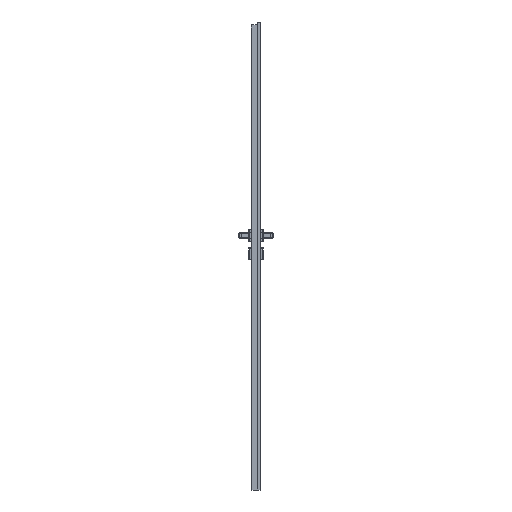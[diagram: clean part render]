
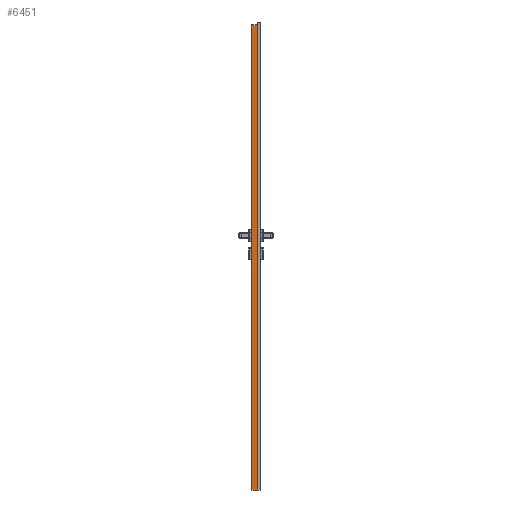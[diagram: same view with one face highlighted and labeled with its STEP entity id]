
A CAD part, left-side view. The second image highlights one B-rep face of the part: STEP entity #6451.
In plain terms, the highlighted planar face has unit normal (-1, 0, 0).
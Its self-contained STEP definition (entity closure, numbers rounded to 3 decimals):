
#3921=FACE_OUTER_BOUND('',#11541,.T.);
#6451=ADVANCED_FACE('',(#3921),#8761,.F.);
#8761=PLANE('',#44890);
#11541=EDGE_LOOP('',(#15598,#15599,#15600,#15601,#15602));
#15598=ORIENTED_EDGE('',*,*,#31722,.T.);
#15599=ORIENTED_EDGE('',*,*,#31734,.T.);
#15600=ORIENTED_EDGE('',*,*,#31743,.T.);
#15601=ORIENTED_EDGE('',*,*,#31744,.F.);
#15602=ORIENTED_EDGE('',*,*,#31745,.F.);
#27300=VERTEX_POINT('',#66490);
#27302=VERTEX_POINT('',#66494);
#27312=VERTEX_POINT('',#66517);
#27319=VERTEX_POINT('',#66536);
#27320=VERTEX_POINT('',#66538);
#31722=EDGE_CURVE('',#27300,#27302,#37782,.T.);
#31734=EDGE_CURVE('',#27302,#27312,#37789,.T.);
#31743=EDGE_CURVE('',#27312,#27319,#37795,.T.);
#31744=EDGE_CURVE('',#27320,#27319,#37796,.T.);
#31745=EDGE_CURVE('',#27300,#27320,#37797,.T.);
#37782=LINE('',#66495,#41252);
#37789=LINE('',#66518,#41259);
#37795=LINE('',#66535,#41265);
#37796=LINE('',#66537,#41266);
#37797=LINE('',#66539,#41267);
#41252=VECTOR('',#50469,1.);
#41259=VECTOR('',#50488,1.);
#41265=VECTOR('',#50504,1.);
#41266=VECTOR('',#50505,1.);
#41267=VECTOR('',#50506,1.);
#44890=AXIS2_PLACEMENT_3D('',#66540,#50507,#50508);
#50469=DIRECTION('',(0.,0.,-1.));
#50488=DIRECTION('',(0.,-0.707,-0.707));
#50504=DIRECTION('',(0.,-1.,0.));
#50505=DIRECTION('',(0.,0.,-1.));
#50506=DIRECTION('',(0.,-1.,0.));
#50507=DIRECTION('',(1.,0.,0.));
#50508=DIRECTION('',(0.,0.,-1.));
#66490=CARTESIAN_POINT('',(-309.,0.,2017.));
#66494=CARTESIAN_POINT('',(-309.,0.,2.));
#66495=CARTESIAN_POINT('',(-309.,0.,2030.));
#66517=CARTESIAN_POINT('',(-309.,-2.,0.));
#66518=CARTESIAN_POINT('',(-309.,0.,2.));
#66535=CARTESIAN_POINT('',(-309.,0.,0.));
#66536=CARTESIAN_POINT('',(-309.,-26.,0.));
#66537=CARTESIAN_POINT('',(-309.,-26.,2030.));
#66538=CARTESIAN_POINT('',(-309.,-26.,2017.));
#66539=CARTESIAN_POINT('',(-309.,0.,2017.));
#66540=CARTESIAN_POINT('',(-309.,0.,2030.));
